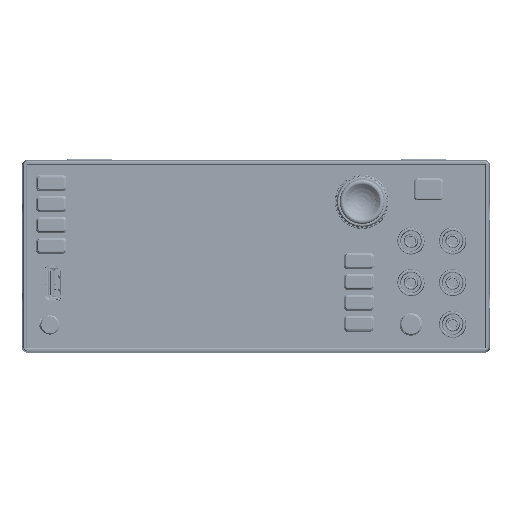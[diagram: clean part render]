
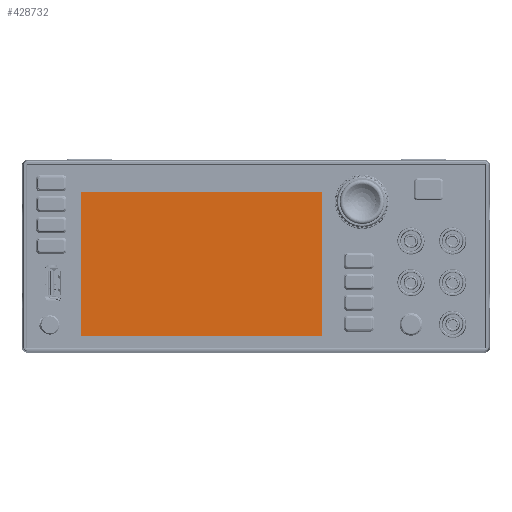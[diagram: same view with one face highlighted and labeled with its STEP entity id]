
A CAD part, top view. The second image highlights one B-rep face of the part: STEP entity #428732.
In plain terms, the highlighted planar face has unit normal (0, 0, 1).
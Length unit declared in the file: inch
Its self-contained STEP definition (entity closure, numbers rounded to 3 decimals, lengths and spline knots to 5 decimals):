
#428617=DIRECTION('',(0.,-1.,0.));
#428618=VECTOR('',#428617,2.99);
#428619=CARTESIAN_POINT('',(-2.3325,1.495,0.05));
#428620=LINE('',#428619,#428618);
#428621=DIRECTION('',(-1.,0.,0.));
#428622=VECTOR('',#428621,4.665);
#428623=CARTESIAN_POINT('',(2.3325,1.495,0.05));
#428624=LINE('',#428623,#428622);
#428625=DIRECTION('',(0.,1.,0.));
#428626=VECTOR('',#428625,2.99);
#428627=CARTESIAN_POINT('',(2.3325,-1.495,0.05));
#428628=LINE('',#428627,#428626);
#428629=DIRECTION('',(1.,0.,0.));
#428630=VECTOR('',#428629,4.665);
#428631=CARTESIAN_POINT('',(-2.3325,-1.495,0.05));
#428632=LINE('',#428631,#428630);
#428641=CARTESIAN_POINT('',(-2.3325,1.495,0.05));
#428642=CARTESIAN_POINT('',(-2.3325,-1.495,0.05));
#428643=VERTEX_POINT('',#428641);
#428644=VERTEX_POINT('',#428642);
#428645=CARTESIAN_POINT('',(2.3325,-1.495,0.05));
#428646=VERTEX_POINT('',#428645);
#428647=CARTESIAN_POINT('',(2.3325,1.495,0.05));
#428648=VERTEX_POINT('',#428647);
#428721=CARTESIAN_POINT('',(0.,0.,0.05));
#428722=DIRECTION('',(0.,0.,1.));
#428723=DIRECTION('',(1.,0.,0.));
#428724=AXIS2_PLACEMENT_3D('',#428721,#428722,#428723);
#428725=PLANE('',#428724);
#428726=ORIENTED_EDGE('',*,*,#428673,.F.);
#428727=ORIENTED_EDGE('',*,*,#428688,.F.);
#428728=ORIENTED_EDGE('',*,*,#428702,.F.);
#428729=ORIENTED_EDGE('',*,*,#428715,.F.);
#428730=EDGE_LOOP('',(#428726,#428727,#428728,#428729));
#428731=FACE_OUTER_BOUND('',#428730,.F.);
#428732=ADVANCED_FACE('',(#428731),#428725,.T.);
#428673=EDGE_CURVE('',#428643,#428644,#428620,.T.);
#428688=EDGE_CURVE('',#428648,#428643,#428624,.T.);
#428702=EDGE_CURVE('',#428646,#428648,#428628,.T.);
#428715=EDGE_CURVE('',#428644,#428646,#428632,.T.);
